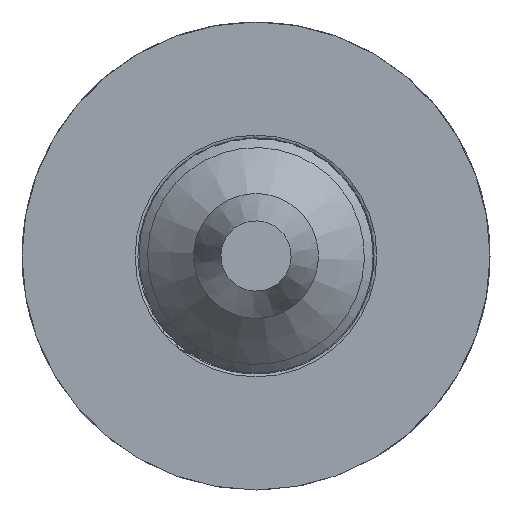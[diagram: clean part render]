
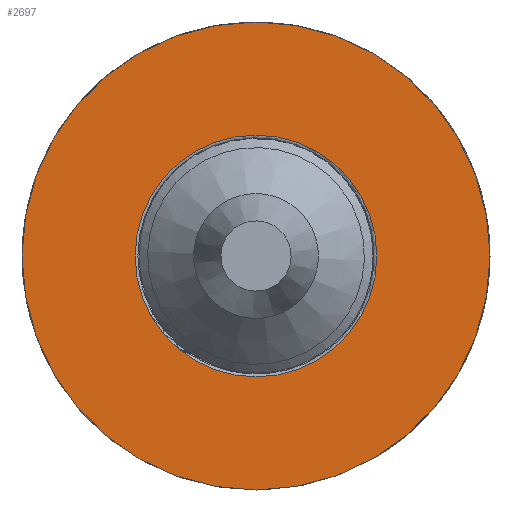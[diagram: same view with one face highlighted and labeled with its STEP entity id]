
A CAD part, left-side view. The second image highlights one B-rep face of the part: STEP entity #2697.
In plain terms, the highlighted planar face has unit normal (-1, 0, 0) as drawn and (0, 0, -1) by its records, which use the part's own axes.
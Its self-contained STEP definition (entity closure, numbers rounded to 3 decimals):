
#380=PLANE('',#2915);
#665=ORIENTED_EDGE('',*,*,#1443,.F.);
#666=ORIENTED_EDGE('',*,*,#1440,.T.);
#1440=EDGE_CURVE('',#1829,#1829,#2104,.T.);
#1443=EDGE_CURVE('',#1832,#1832,#2107,.T.);
#1829=VERTEX_POINT('',#3666);
#1832=VERTEX_POINT('',#3675);
#2104=CIRCLE('',#2910,15.);
#2107=CIRCLE('',#2916,7.75);
#2189=EDGE_LOOP('',(#665));
#2190=EDGE_LOOP('',(#666));
#2439=FACE_BOUND('',#2189,.T.);
#2440=FACE_BOUND('',#2190,.T.);
#2697=ADVANCED_FACE('',(#2439,#2440),#380,.T.);
#2910=AXIS2_PLACEMENT_3D('',#3665,#3116,#3117);
#2915=AXIS2_PLACEMENT_3D('',#3673,#3126,#3127);
#2916=AXIS2_PLACEMENT_3D('',#3674,#3128,#3129);
#3116=DIRECTION('',(0.,0.,-1.));
#3117=DIRECTION('',(-1.,0.,0.));
#3126=DIRECTION('',(0.,0.,-1.));
#3127=DIRECTION('',(-1.,0.,0.));
#3128=DIRECTION('',(0.,0.,-1.));
#3129=DIRECTION('',(-1.,0.,0.));
#3665=CARTESIAN_POINT('',(0.,0.,-16.854));
#3666=CARTESIAN_POINT('',(-15.,0.,-16.854));
#3673=CARTESIAN_POINT('',(0.,-7.75,-16.854));
#3674=CARTESIAN_POINT('',(0.,0.,-16.854));
#3675=CARTESIAN_POINT('',(-7.75,0.,-16.854));
